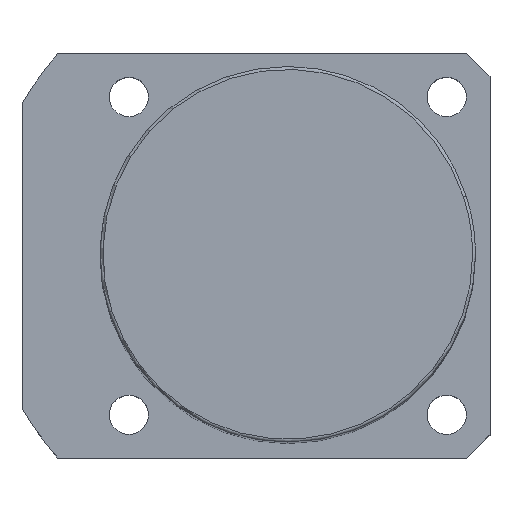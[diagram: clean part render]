
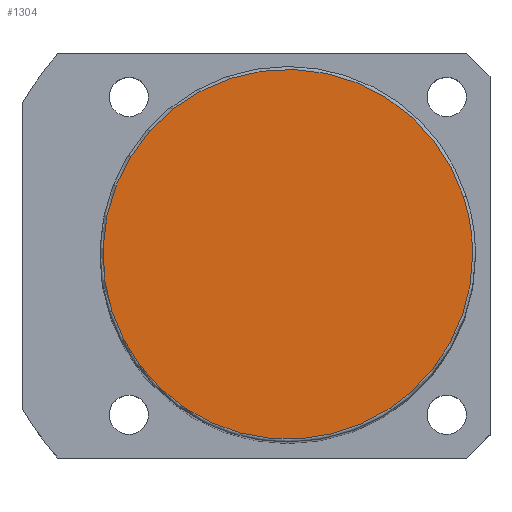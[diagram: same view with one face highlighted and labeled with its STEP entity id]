
A CAD part, top view. The second image highlights one B-rep face of the part: STEP entity #1304.
In plain terms, the highlighted planar face has unit normal (0, 0, 1).
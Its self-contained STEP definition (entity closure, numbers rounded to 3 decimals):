
#1237=CARTESIAN_POINT('',(30.434,9.889,171.0));
#1238=VERTEX_POINT('',#1237);
#1256=CARTESIAN_POINT('',(-30.434,-9.889,171.0));
#1257=VERTEX_POINT('',#1256);
#1265=CARTESIAN_POINT('',(0.0,0.0,171.0));
#1266=DIRECTION('',(0.0,0.0,1.0));
#1267=DIRECTION('',(1.0,0.0,0.0));
#1268=AXIS2_PLACEMENT_3D('',#1265,#1266,#1267);
#1269=CIRCLE('',#1268,32.0);
#1270=EDGE_CURVE('no 1833',#1238,#1257,#1269,.T.);
#1280=CARTESIAN_POINT('',(32.0,0.0,171.0));
#1281=VERTEX_POINT('',#1280);
#1282=CARTESIAN_POINT('',(0.0,0.0,171.0));
#1283=DIRECTION('',(0.0,0.0,1.0));
#1284=DIRECTION('',(1.0,0.0,0.0));
#1285=AXIS2_PLACEMENT_3D('',#1282,#1283,#1284);
#1286=CIRCLE('',#1285,32.0);
#1287=EDGE_CURVE('no 1842',#1281,#1238,#1286,.T.);
#1288=ORIENTED_EDGE('',*,*,#1287,.T.);
#1289=ORIENTED_EDGE('',*,*,#1270,.T.);
#1290=CARTESIAN_POINT('',(0.0,0.0,171.0));
#1291=DIRECTION('',(0.0,0.0,1.0));
#1292=DIRECTION('',(1.0,0.0,0.0));
#1293=AXIS2_PLACEMENT_3D('',#1290,#1291,#1292);
#1294=CIRCLE('',#1293,32.0);
#1295=EDGE_CURVE('no 1848',#1257,#1281,#1294,.T.);
#1296=ORIENTED_EDGE('',*,*,#1295,.T.);
#1297=EDGE_LOOP('',(#1288,#1289,#1296));
#1298=FACE_OUTER_BOUND('',#1297,.T.);
#1299=CARTESIAN_POINT('',(0.0,0.0,171.0));
#1300=DIRECTION('',(0.0,0.0,1.0));
#1301=DIRECTION('',(1.0,0.0,0.0));
#1302=AXIS2_PLACEMENT_3D('',#1299,#1300,#1301);
#1303=PLANE('',#1302);
#1304=ADVANCED_FACE('no 1835',(#1298),#1303,.T.);
